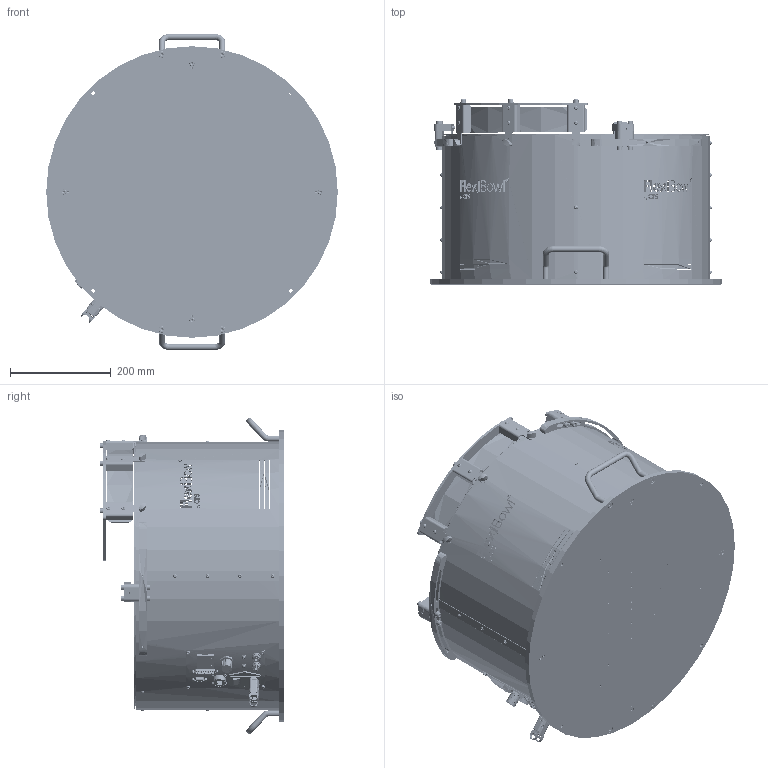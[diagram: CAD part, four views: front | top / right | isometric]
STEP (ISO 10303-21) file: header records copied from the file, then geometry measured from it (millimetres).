
FILE_DESCRIPTION (( 'STEP AP214' ), '1' );
FILE_NAME ('FB500CC_E.STEP', '2021-09-09T13:19:40', ( '' ), ( '' ), 'SwSTEP 2.0', 'SolidWorks 2020', '' );
FILE_SCHEMA (( 'AUTOMOTIVE_DESIGN' ));
Length unit declared in the file: millimetre
Products named in the file (72): CE000325; PD001363; CM000027; CE000302; PD001740; CM000669; PD001440; CM000744; Copia di 39-01-2045^CE000326; PD001739; Copia di Led RDY_FLT^CE000326; PD001059; CM000024; PD001433; Copia di connector_a-ds_25_pp-f^CE000302; PD001360_FB500; CE000007; PD001107; CM000008_005; CM000043; CE000327; CM000015; CM000031; Copia di 39-01-2025^CE000327; PD001424; CM000025; CM000008_002; CE000005; CE000316; CM000686; CM000008_003; FB500CC_E; PD001356; Copia di connector_amet-15rs^CE000302; CE000013; CM000686_001; PD001362; CM000050; CE000276; PD001106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
Assembly tree (196 placements, depth 3):
  FB500CC_E
    CM000032  x4
    CM000031  x7
    CM000478  x33
    CM000050  x3
    CM000166  x8
    CM000091  x2
    CM000021  x15
    CM000170  x4
    CM000051  x4
    CM000064  x4
    CM000744  x8
    CM000027  x3
    CM000024  x10
    CM000026  x10
    CM000025  x4
    CM000043  x2
    CM000006  x4
    PD001071
    CM000001  x2
    PD001440  x4
    PD001740
    PD001739
    PD001736  x2
    PD001422
    PD001356
    PD000709
    PD001104
    PD001105
    PD001106
    PD001107
    PD001109  x3
    PD001111  x3
    PD001112
    PD001059
    PD001362  x2
    PD001363  x2
    PD001425
    PD001433  x2
    PD001424
    CM000669  x3
    PD001360_FB500
    CE000007
    CM000015  x2
      CM000015_001
      CM000015_002
    CE000013  x2
    CE000005
    CM000008
      CM000008_001
      CM000008_003  x2
      CM000008_002
      CM000008_004
      CM000008_005
    CE000302
      Copia di connector_a-ds_25_pp-f^CE000302
      Copia di 15 poli femmina^CE000302
      Copia di connector_amet-15rs^CE000302
      Copia di Connettore te 2 poli - Copia^CE000302
      Copia di 39-01-2025^CE000302
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Bounding box: 580 x 368 x 628.99 mm (x, y, z)
Volume: 6695254.7 mm3; surface area: 3191643 mm2
Topology: 203 solids, 222 shells, 11153 faces, 28736 edges, 18427 vertices
Faces by surface type: plane 5682, cylinder 2564, cone 1187, bspline 1177, torus 503, sphere 40
Entity records: 399975 total; most frequent: CARTESIAN_POINT 154510, ORIENTED_EDGE 43240, DIRECTION 33624, EDGE_CURVE 21822, VERTEX_POINT 14515, AXIS2_PLACEMENT_3D 11641, LINE 10342, VECTOR 10342
